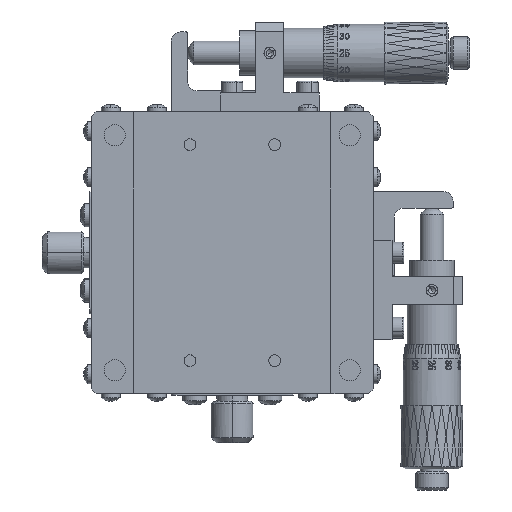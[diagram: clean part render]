
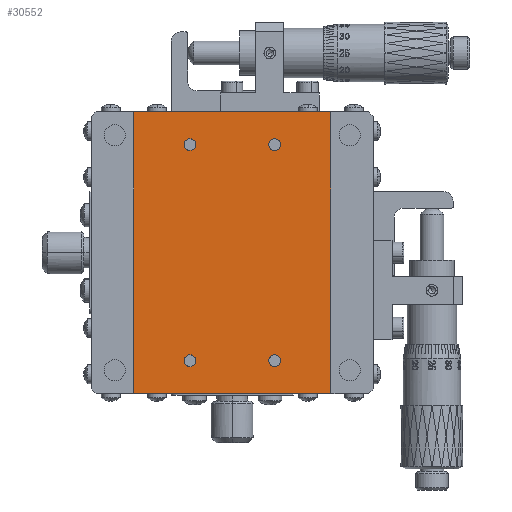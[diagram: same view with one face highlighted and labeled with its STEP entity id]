
A CAD part, front view. The second image highlights one B-rep face of the part: STEP entity #30552.
In plain terms, the highlighted planar face has unit normal (0, -1, 0).
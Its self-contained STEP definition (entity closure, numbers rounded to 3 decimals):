
#352 = CARTESIAN_POINT ( 'NONE',  ( 9.054, 32.855, 2.887 ) ) ;
#668 = EDGE_CURVE ( 'NONE', #110461, #50552, #74425, .T. ) ;
#7104 = EDGE_LOOP ( 'NONE', ( #20777, #70246, #133189, #68109 ) ) ;
#8988 = EDGE_CURVE ( 'NONE', #116041, #137891, #160629, .T. ) ;
#11894 = AXIS2_PLACEMENT_3D ( 'NONE', #69709, #132624, #123522 ) ;
#13425 = CIRCLE ( 'NONE', #27524, 1.25 ) ;
#15865 = FACE_BOUND ( 'NONE', #173963, .T. ) ;
#16148 = EDGE_CURVE ( 'NONE', #39544, #63762, #171824, .T. ) ;
#18803 = CARTESIAN_POINT ( 'NONE',  ( 51.054, 32.855, 62.887 ) ) ;
#20114 = EDGE_CURVE ( 'NONE', #137891, #116041, #97923, .T. ) ;
#20777 = ORIENTED_EDGE ( 'NONE', *, *, #38295, .T. ) ;
#21303 = DIRECTION ( 'NONE',  ( 0., 1., 0. ) ) ;
#27524 = AXIS2_PLACEMENT_3D ( 'NONE', #108606, #162364, #173032 ) ;
#27694 = CIRCLE ( 'NONE', #50321, 1.25 ) ;
#27785 = EDGE_CURVE ( 'NONE', #63762, #39544, #27694, .T. ) ;
#30344 = CARTESIAN_POINT ( 'NONE',  ( 9.054, 32.855, 62.887 ) ) ;
#30552 = ADVANCED_FACE ( 'NONE', ( #15865, #118569, #174097, #120300, #159991 ), #52421, .F. ) ;
#31269 = DIRECTION ( 'NONE',  ( 0., 0., 1. ) ) ;
#36298 = CARTESIAN_POINT ( 'NONE',  ( 9.054, 32.855, 2.887 ) ) ;
#38067 = CARTESIAN_POINT ( 'NONE',  ( 9.054, 32.855, 62.887 ) ) ;
#38295 = EDGE_CURVE ( 'NONE', #97620, #120011, #68811, .T. ) ;
#38892 = VERTEX_POINT ( 'NONE', #153857 ) ;
#39544 = VERTEX_POINT ( 'NONE', #52363 ) ;
#41222 = VECTOR ( 'NONE', #31269, 1000. ) ;
#41241 = EDGE_LOOP ( 'NONE', ( #121067, #131143 ) ) ;
#47349 = EDGE_CURVE ( 'NONE', #78857, #120011, #70950, .T. ) ;
#47668 = DIRECTION ( 'NONE',  ( 0., 0., 1. ) ) ;
#49127 = CARTESIAN_POINT ( 'NONE',  ( 39.054, 32.855, 57.137 ) ) ;
#50321 = AXIS2_PLACEMENT_3D ( 'NONE', #126563, #111643, #57837 ) ;
#50492 = CARTESIAN_POINT ( 'NONE',  ( 21.054, 32.855, 9.887 ) ) ;
#50552 = VERTEX_POINT ( 'NONE', #129807 ) ;
#50619 = EDGE_CURVE ( 'NONE', #50552, #110461, #13425, .T. ) ;
#52363 = CARTESIAN_POINT ( 'NONE',  ( 39.054, 32.855, 8.637 ) ) ;
#52421 = PLANE ( 'NONE',  #11894 ) ;
#57837 = DIRECTION ( 'NONE',  ( 0., 0., 1. ) ) ;
#58846 = CARTESIAN_POINT ( 'NONE',  ( 51.054, 32.855, 2.887 ) ) ;
#59162 = DIRECTION ( 'NONE',  ( 0., 1., 0. ) ) ;
#61023 = CIRCLE ( 'NONE', #159603, 1.25 ) ;
#61690 = ORIENTED_EDGE ( 'NONE', *, *, #8988, .T. ) ;
#63114 = DIRECTION ( 'NONE',  ( 0., 1., 0. ) ) ;
#63762 = VERTEX_POINT ( 'NONE', #74096 ) ;
#67528 = CIRCLE ( 'NONE', #70250, 1.25 ) ;
#68109 = ORIENTED_EDGE ( 'NONE', *, *, #96037, .T. ) ;
#68458 = EDGE_LOOP ( 'NONE', ( #117981, #126582 ) ) ;
#68811 = LINE ( 'NONE', #38067, #70204 ) ;
#69709 = CARTESIAN_POINT ( 'NONE',  ( 9.054, 32.855, 2.887 ) ) ;
#70204 = VECTOR ( 'NONE', #92748, 1000. ) ;
#70246 = ORIENTED_EDGE ( 'NONE', *, *, #47349, .F. ) ;
#70250 = AXIS2_PLACEMENT_3D ( 'NONE', #154868, #63114, #141626 ) ;
#70950 = LINE ( 'NONE', #73554, #41222 ) ;
#73554 = CARTESIAN_POINT ( 'NONE',  ( 9.054, 32.855, 2.887 ) ) ;
#74096 = CARTESIAN_POINT ( 'NONE',  ( 39.054, 32.855, 11.137 ) ) ;
#74425 = CIRCLE ( 'NONE', #147619, 1.25 ) ;
#75328 = AXIS2_PLACEMENT_3D ( 'NONE', #50492, #21303, #115780 ) ;
#78857 = VERTEX_POINT ( 'NONE', #36298 ) ;
#81638 = CARTESIAN_POINT ( 'NONE',  ( 21.054, 32.855, 11.137 ) ) ;
#84178 = VERTEX_POINT ( 'NONE', #49127 ) ;
#85543 = CARTESIAN_POINT ( 'NONE',  ( 21.054, 32.855, 8.637 ) ) ;
#88189 = DIRECTION ( 'NONE',  ( 0., 1., 0. ) ) ;
#89077 = CARTESIAN_POINT ( 'NONE',  ( 39.054, 32.855, 9.887 ) ) ;
#89742 = VECTOR ( 'NONE', #168152, 1000. ) ;
#92748 = DIRECTION ( 'NONE',  ( -1., 0., 0. ) ) ;
#93053 = DIRECTION ( 'NONE',  ( 0., 1., 0. ) ) ;
#95068 = ORIENTED_EDGE ( 'NONE', *, *, #50619, .T. ) ;
#96037 = EDGE_CURVE ( 'NONE', #106099, #97620, #99410, .T. ) ;
#97620 = VERTEX_POINT ( 'NONE', #18803 ) ;
#97923 = CIRCLE ( 'NONE', #75328, 1.25 ) ;
#99410 = LINE ( 'NONE', #58846, #89742 ) ;
#102097 = EDGE_CURVE ( 'NONE', #106099, #78857, #121260, .T. ) ;
#102932 = DIRECTION ( 'NONE',  ( 0., 1., 0. ) ) ;
#104324 = CARTESIAN_POINT ( 'NONE',  ( 51.054, 32.855, 2.887 ) ) ;
#106099 = VERTEX_POINT ( 'NONE', #104324 ) ;
#107149 = DIRECTION ( 'NONE',  ( 0., 0., 1. ) ) ;
#108606 = CARTESIAN_POINT ( 'NONE',  ( 21.054, 32.855, 55.887 ) ) ;
#110461 = VERTEX_POINT ( 'NONE', #174203 ) ;
#111643 = DIRECTION ( 'NONE',  ( 0., 1., 0. ) ) ;
#115780 = DIRECTION ( 'NONE',  ( 0., 0., 1. ) ) ;
#116041 = VERTEX_POINT ( 'NONE', #81638 ) ;
#117981 = ORIENTED_EDGE ( 'NONE', *, *, #161828, .T. ) ;
#118569 = FACE_BOUND ( 'NONE', #154629, .T. ) ;
#118839 = VECTOR ( 'NONE', #135311, 1000. ) ;
#119848 = EDGE_CURVE ( 'NONE', #38892, #84178, #67528, .T. ) ;
#120011 = VERTEX_POINT ( 'NONE', #30344 ) ;
#120300 = FACE_BOUND ( 'NONE', #68458, .T. ) ;
#121067 = ORIENTED_EDGE ( 'NONE', *, *, #27785, .T. ) ;
#121260 = LINE ( 'NONE', #352, #118839 ) ;
#123522 = DIRECTION ( 'NONE',  ( 0., 0., 1. ) ) ;
#126563 = CARTESIAN_POINT ( 'NONE',  ( 39.054, 32.855, 9.887 ) ) ;
#126582 = ORIENTED_EDGE ( 'NONE', *, *, #119848, .T. ) ;
#127612 = CARTESIAN_POINT ( 'NONE',  ( 21.054, 32.855, 9.887 ) ) ;
#127875 = DIRECTION ( 'NONE',  ( 0., 0., 1. ) ) ;
#129807 = CARTESIAN_POINT ( 'NONE',  ( 21.054, 32.855, 57.137 ) ) ;
#131143 = ORIENTED_EDGE ( 'NONE', *, *, #16148, .T. ) ;
#132624 = DIRECTION ( 'NONE',  ( 0., 1., 0. ) ) ;
#133189 = ORIENTED_EDGE ( 'NONE', *, *, #102097, .F. ) ;
#135311 = DIRECTION ( 'NONE',  ( -1., 0., 0. ) ) ;
#137891 = VERTEX_POINT ( 'NONE', #85543 ) ;
#140795 = AXIS2_PLACEMENT_3D ( 'NONE', #89077, #59162, #127875 ) ;
#141626 = DIRECTION ( 'NONE',  ( 0., 0., 1. ) ) ;
#143447 = DIRECTION ( 'NONE',  ( 0., 0., 1. ) ) ;
#145035 = CARTESIAN_POINT ( 'NONE',  ( 39.054, 32.855, 55.887 ) ) ;
#147619 = AXIS2_PLACEMENT_3D ( 'NONE', #156936, #88189, #47668 ) ;
#149266 = AXIS2_PLACEMENT_3D ( 'NONE', #127612, #102932, #143447 ) ;
#153857 = CARTESIAN_POINT ( 'NONE',  ( 39.054, 32.855, 54.637 ) ) ;
#154421 = ORIENTED_EDGE ( 'NONE', *, *, #668, .T. ) ;
#154629 = EDGE_LOOP ( 'NONE', ( #95068, #154421 ) ) ;
#154868 = CARTESIAN_POINT ( 'NONE',  ( 39.054, 32.855, 55.887 ) ) ;
#156936 = CARTESIAN_POINT ( 'NONE',  ( 21.054, 32.855, 55.887 ) ) ;
#159603 = AXIS2_PLACEMENT_3D ( 'NONE', #145035, #93053, #107149 ) ;
#159991 = FACE_OUTER_BOUND ( 'NONE', #7104, .T. ) ;
#160629 = CIRCLE ( 'NONE', #149266, 1.25 ) ;
#161828 = EDGE_CURVE ( 'NONE', #84178, #38892, #61023, .T. ) ;
#162364 = DIRECTION ( 'NONE',  ( 0., 1., 0. ) ) ;
#167437 = ORIENTED_EDGE ( 'NONE', *, *, #20114, .T. ) ;
#168152 = DIRECTION ( 'NONE',  ( 0., 0., 1. ) ) ;
#171824 = CIRCLE ( 'NONE', #140795, 1.25 ) ;
#173032 = DIRECTION ( 'NONE',  ( 0., 0., 1. ) ) ;
#173963 = EDGE_LOOP ( 'NONE', ( #61690, #167437 ) ) ;
#174097 = FACE_BOUND ( 'NONE', #41241, .T. ) ;
#174203 = CARTESIAN_POINT ( 'NONE',  ( 21.054, 32.855, 54.637 ) ) ;
